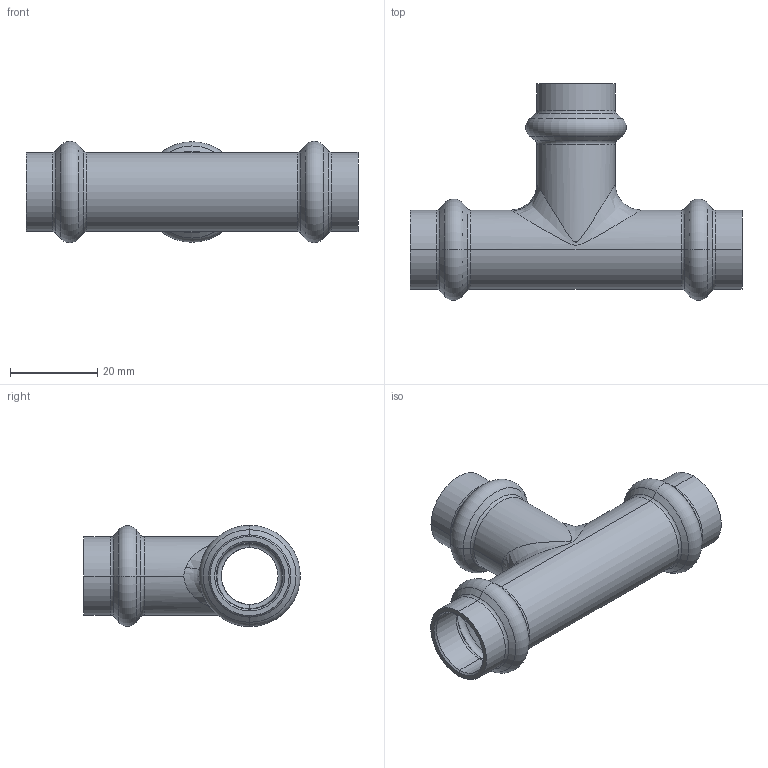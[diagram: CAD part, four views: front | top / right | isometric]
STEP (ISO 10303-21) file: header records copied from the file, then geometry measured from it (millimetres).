
FILE_DESCRIPTION (( 'STEP AP203' ), '1' );
FILE_NAME ('SP5130 Ø15.STEP', '2017-04-24T12:15:01', ( '' ), ( '' ), 'SwSTEP 2.0', 'SolidWorks 2016', '' );
FILE_SCHEMA (( 'CONFIG_CONTROL_DESIGN' ));
Length unit declared in the file: millimetre
Products named in the file (1): SP5130 ﾘ15
Bounding box: 76 x 49.6 x 23.2 mm (x, y, z)
Volume: 10245.7 mm3; surface area: 11948.6 mm2
Topology: 1 solids, 1 shells, 110 faces, 226 edges, 122 vertices
Faces by surface type: torus 40, cone 30, cylinder 30, plane 6, bspline 4
Entity records: 4237 total; most frequent: CARTESIAN_POINT 1775, DIRECTION 582, ORIENTED_EDGE 452, AXIS2_PLACEMENT_3D 261, EDGE_CURVE 226, CIRCLE 154, VERTEX_POINT 122, EDGE_LOOP 118
